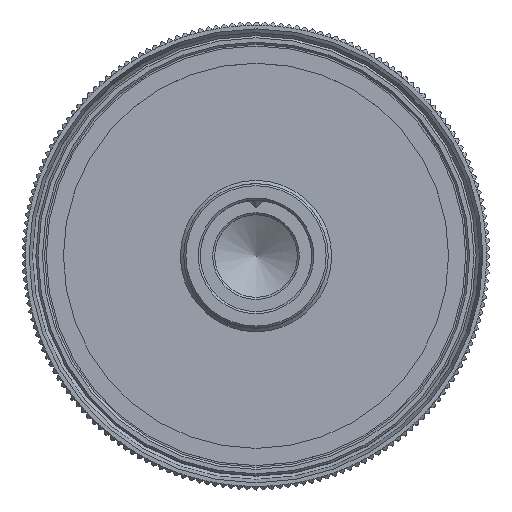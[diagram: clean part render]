
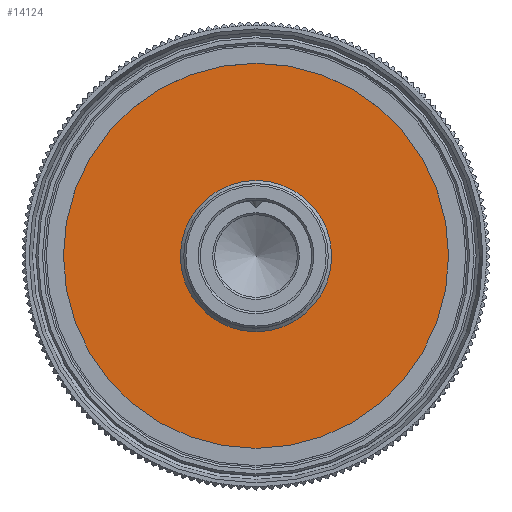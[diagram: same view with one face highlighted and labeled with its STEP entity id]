
A CAD part, top view. The second image highlights one B-rep face of the part: STEP entity #14124.
In plain terms, the highlighted planar face has unit normal (0, 0, 1).
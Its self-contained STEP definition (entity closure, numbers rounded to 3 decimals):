
#2726=PLANE('',#22454);
#6788=ORIENTED_EDGE('',*,*,#8976,.T.);
#6789=ORIENTED_EDGE('',*,*,#8977,.T.);
#8976=EDGE_CURVE('',#10158,#10158,#10939,.F.);
#8977=EDGE_CURVE('',#10159,#10159,#10940,.T.);
#10158=VERTEX_POINT('',#32920);
#10159=VERTEX_POINT('',#32922);
#10939=CIRCLE('',#22455,11.);
#10940=CIRCLE('',#22456,32.);
#11908=EDGE_LOOP('',(#6788));
#11909=EDGE_LOOP('',(#6789));
#12927=FACE_BOUND('',#11908,.T.);
#12928=FACE_BOUND('',#11909,.T.);
#14124=ADVANCED_FACE('',(#12927,#12928),#2726,.T.);
#22454=AXIS2_PLACEMENT_3D('',#32918,#26453,#26454);
#22455=AXIS2_PLACEMENT_3D('',#32919,#26455,#26456);
#22456=AXIS2_PLACEMENT_3D('',#32921,#26457,#26458);
#26453=DIRECTION('',(0.,0.,1.));
#26454=DIRECTION('',(1.,0.,0.));
#26455=DIRECTION('',(0.,0.,1.));
#26456=DIRECTION('',(1.,0.,0.));
#26457=DIRECTION('',(0.,0.,1.));
#26458=DIRECTION('',(1.,0.,0.));
#32918=CARTESIAN_POINT('',(0.,0.,-32.5));
#32919=CARTESIAN_POINT('',(0.,0.,-32.5));
#32920=CARTESIAN_POINT('',(11.,0.,-32.5));
#32921=CARTESIAN_POINT('',(0.,0.,-32.5));
#32922=CARTESIAN_POINT('',(32.,0.,-32.5));
